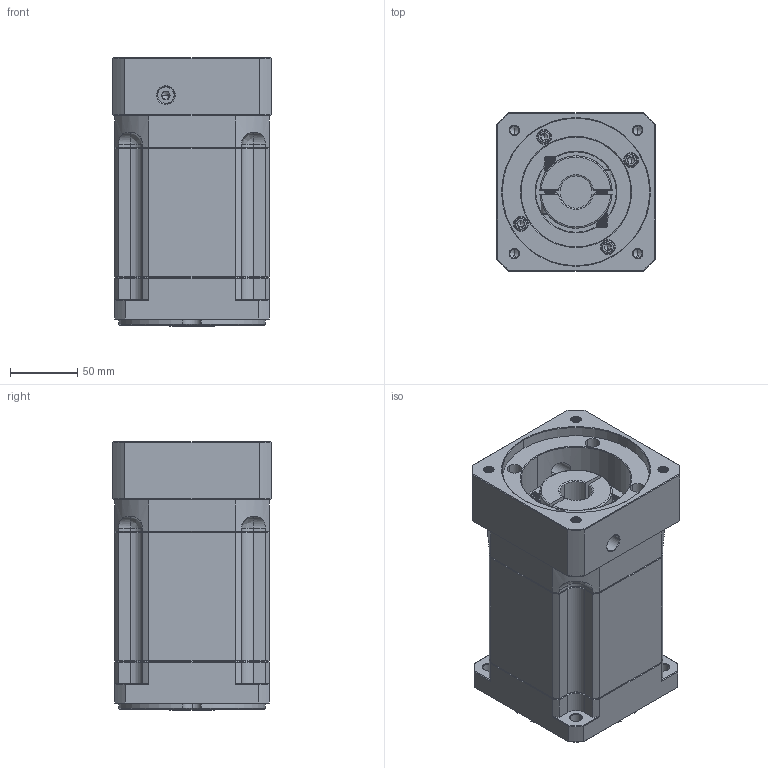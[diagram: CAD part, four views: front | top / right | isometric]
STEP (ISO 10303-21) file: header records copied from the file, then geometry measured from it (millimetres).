
FILE_DESCRIPTION (( 'STEP AP214' ), '1' );
FILE_NAME ('ZB115A-K25-L3-P2-24-110-130-M8.step', '2023-08-26T06:39:49', ( '' ), ( '' ), 'SwSTEP 2.0', 'SolidWorks 2016', '' );
FILE_SCHEMA (( 'AUTOMOTIVE_DESIGN' ));
Length unit declared in the file: millimetre
Products named in the file (1): ZB115A-K25-L3-P2-24-110-130-M8
Bounding box: 118 x 118 x 200.5 mm (x, y, z)
Volume: 2158807.5 mm3; surface area: 191794.8 mm2
Topology: 6 solids, 6 shells, 2340 faces, 6142 edges, 3902 vertices
Faces by surface type: plane 1137, bspline 414, cylinder 408, cone 361, torus 20
Entity records: 123793 total; most frequent: CARTESIAN_POINT 43739, ORIENTED_EDGE 12220, DIRECTION 9719, EDGE_CURVE 6110, LINE 3945, VECTOR 3945, VERTEX_POINT 3902, AXIS2_PLACEMENT_3D 2887
